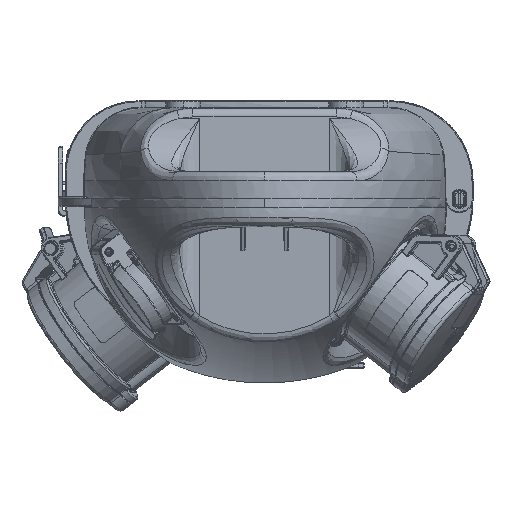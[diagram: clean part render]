
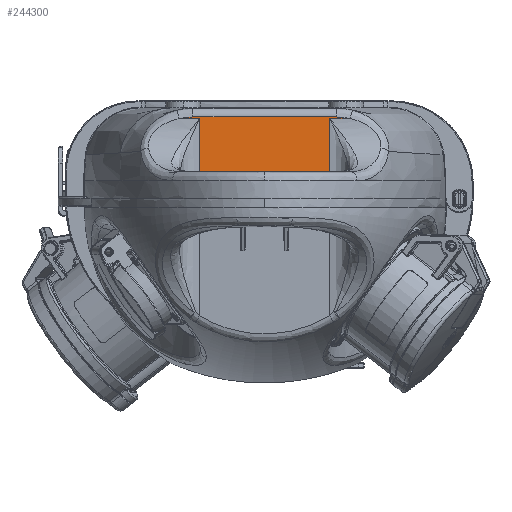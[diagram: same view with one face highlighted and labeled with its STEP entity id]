
A CAD part, left-side view. The second image highlights one B-rep face of the part: STEP entity #244300.
In plain terms, the highlighted planar face has unit normal (-1, 0, 0.026).
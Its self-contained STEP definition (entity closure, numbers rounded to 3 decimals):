
#54414=CARTESIAN_POINT('',(-138.842,47.23,
34.215));
#54434=CARTESIAN_POINT('',(-138.842,47.23,
34.215));
#54435=CARTESIAN_POINT('',(-138.84,46.96,
34.281));
#54436=CARTESIAN_POINT('',(-138.837,46.416,
34.407));
#54437=CARTESIAN_POINT('',(-138.833,45.591,
34.575));
#54438=CARTESIAN_POINT('',(-138.829,44.755,
34.722));
#54439=CARTESIAN_POINT('',(-138.826,43.91,
34.847));
#54440=CARTESIAN_POINT('',(-138.823,43.057,
34.95));
#54441=CARTESIAN_POINT('',(-138.821,42.197,
35.03));
#54442=CARTESIAN_POINT('',(-138.819,41.33,
35.088));
#54443=CARTESIAN_POINT('',(-138.818,40.456,
35.123));
#54444=CARTESIAN_POINT('',(-138.818,39.871,
35.131));
#54445=CARTESIAN_POINT('',(-138.818,39.577,
35.131));
#54456=DIRECTION('',(0.,-1.,0.));
#54457=VECTOR('',#54456,79.155);
#54458=CARTESIAN_POINT('',(-138.818,39.577,
35.131));
#54459=LINE('6782',#54458,#54457);
#54478=CARTESIAN_POINT('',(-138.818,-39.577,
35.131));
#54479=CARTESIAN_POINT('',(-138.818,-39.871,
35.131));
#54480=CARTESIAN_POINT('',(-138.818,-40.456,
35.123));
#54481=CARTESIAN_POINT('',(-138.819,-41.33,
35.088));
#54482=CARTESIAN_POINT('',(-138.821,-42.197,
35.03));
#54483=CARTESIAN_POINT('',(-138.823,-43.057,
34.95));
#54484=CARTESIAN_POINT('',(-138.826,-43.91,
34.847));
#54485=CARTESIAN_POINT('',(-138.829,-44.755,
34.722));
#54486=CARTESIAN_POINT('',(-138.833,-45.591,
34.575));
#54487=CARTESIAN_POINT('',(-138.837,-46.416,
34.407));
#54488=CARTESIAN_POINT('',(-138.84,-46.96,
34.281));
#54489=CARTESIAN_POINT('',(-138.842,-47.23,
34.215));
#54739=DIRECTION('',(0.,1.,0.));
#54740=VECTOR('',#54739,11.354);
#54741=CARTESIAN_POINT('',(-138.842,-47.23,
34.215));
#54742=LINE('6799',#54741,#54740);
#54751=DIRECTION('',(0.,1.,0.));
#54752=VECTOR('',#54751,11.354);
#54753=CARTESIAN_POINT('',(-138.842,35.875,
34.215));
#54754=LINE('6800',#54753,#54752);
#54755=DIRECTION('',(0.,1.,0.));
#54756=VECTOR('',#54755,1.228);
#54757=CARTESIAN_POINT('',(-140.,-35.875,-10.));
#54758=LINE('17929',#54757,#54756);
#54759=DIRECTION('',(0.,1.,0.));
#54760=VECTOR('',#54759,1.228);
#54761=CARTESIAN_POINT('',(-140.,34.647,-10.));
#54762=LINE('17932',#54761,#54760);
#54763=DIRECTION('',(-0.026,0.,-1.));
#54764=VECTOR('',#54763,44.23);
#54765=CARTESIAN_POINT('',(-138.842,-35.875,
34.215));
#54766=LINE('18015',#54765,#54764);
#54861=CARTESIAN_POINT('',(-138.842,-35.875,
34.215));
#55000=DIRECTION('',(-0.026,0.,-1.));
#55001=VECTOR('',#55000,44.23);
#55002=CARTESIAN_POINT('',(-138.842,35.875,
34.215));
#55003=LINE('18016',#55002,#55001);
#55004=CARTESIAN_POINT('',(-138.842,35.875,
34.215));
#56404=CARTESIAN_POINT('',(-139.904,34.436,
-6.352));
#56405=CARTESIAN_POINT('',(-139.915,34.46,
-6.766));
#56406=CARTESIAN_POINT('',(-139.937,34.507,
-7.588));
#56407=CARTESIAN_POINT('',(-139.969,34.577,
-8.804));
#56408=CARTESIAN_POINT('',(-139.99,34.624,
-9.603));
#56409=CARTESIAN_POINT('',(-140.,34.647,-10.));
#56439=CARTESIAN_POINT('',(-139.904,34.436,
-6.352));
#56440=CARTESIAN_POINT('',(-139.876,34.374,
-5.247));
#56441=CARTESIAN_POINT('',(-139.818,34.248,
-3.046));
#56442=CARTESIAN_POINT('',(-139.732,34.061,
0.229));
#56443=CARTESIAN_POINT('',(-139.675,33.938,
2.395));
#56444=CARTESIAN_POINT('',(-139.647,33.876,
3.474));
#56481=DIRECTION('',(0.,-1.,0.));
#56482=VECTOR('',#56481,67.752);
#56483=CARTESIAN_POINT('',(-139.647,33.876,
3.474));
#56484=LINE('6991',#56483,#56482);
#56573=CARTESIAN_POINT('',(-140.,-34.647,-10.));
#56574=CARTESIAN_POINT('',(-139.99,-34.624,
-9.603));
#56575=CARTESIAN_POINT('',(-139.969,-34.577,
-8.804));
#56576=CARTESIAN_POINT('',(-139.937,-34.507,
-7.588));
#56577=CARTESIAN_POINT('',(-139.915,-34.46,
-6.766));
#56578=CARTESIAN_POINT('',(-139.904,-34.436,
-6.352));
#57521=CARTESIAN_POINT('',(-139.647,-33.876,
3.474));
#57522=CARTESIAN_POINT('',(-139.675,-33.938,
2.395));
#57523=CARTESIAN_POINT('',(-139.732,-34.061,
0.229));
#57524=CARTESIAN_POINT('',(-139.818,-34.248,
-3.046));
#57525=CARTESIAN_POINT('',(-139.876,-34.374,
-5.247));
#57526=CARTESIAN_POINT('',(-139.904,-34.436,
-6.352));
#120492=VERTEX_POINT('',#55004);
#120501=VERTEX_POINT('',#54861);
#120539=VERTEX_POINT('',#54414);
#120541=VERTEX_POINT('',#54445);
#120544=CARTESIAN_POINT('',(-138.818,-39.577,
35.131));
#120545=VERTEX_POINT('',#120544);
#120547=VERTEX_POINT('',#54489);
#120750=CARTESIAN_POINT('',(-139.904,34.436,
-6.352));
#120751=VERTEX_POINT('',#120750);
#120752=CARTESIAN_POINT('',(-139.904,-34.436,
-6.352));
#120753=VERTEX_POINT('',#120752);
#120770=CARTESIAN_POINT('',(-139.647,33.876,
3.474));
#120771=CARTESIAN_POINT('',(-139.647,-33.876,
3.474));
#120772=VERTEX_POINT('',#120770);
#120773=VERTEX_POINT('',#120771);
#134564=CARTESIAN_POINT('',(-140.,-35.875,-10.));
#134566=VERTEX_POINT('',#134564);
#134567=CARTESIAN_POINT('',(-140.,-34.647,-10.));
#134568=VERTEX_POINT('',#134567);
#134572=CARTESIAN_POINT('',(-140.,34.647,-10.));
#134574=VERTEX_POINT('',#134572);
#134575=CARTESIAN_POINT('',(-140.,35.875,-10.));
#134576=VERTEX_POINT('',#134575);
#244270=CARTESIAN_POINT('',(-140.,-36.343,-10.));
#244271=DIRECTION('',(1.,0.,-0.026));
#244272=DIRECTION('',(0.,-1.,0.));
#244273=AXIS2_PLACEMENT_3D('',#244270,#244271,#244272);
#244274=PLANE('33',#244273);
#244276=ORIENTED_EDGE('17929',*,*,#244275,.T.);
#244278=ORIENTED_EDGE('18024',*,*,#244277,.T.);
#244280=ORIENTED_EDGE('7009',*,*,#244279,.F.);
#244282=ORIENTED_EDGE('6991',*,*,#244281,.F.);
#244284=ORIENTED_EDGE('7006',*,*,#244283,.F.);
#244286=ORIENTED_EDGE('18023',*,*,#244285,.T.);
#244288=ORIENTED_EDGE('17932',*,*,#244287,.T.);
#244290=ORIENTED_EDGE('18016',*,*,#244289,.F.);
#244291=ORIENTED_EDGE('6800',*,*,#244253,.T.);
#244292=ORIENTED_EDGE('6780',*,*,#243735,.T.);
#244293=ORIENTED_EDGE('6782',*,*,#243761,.T.);
#244294=ORIENTED_EDGE('6784',*,*,#243816,.T.);
#244295=ORIENTED_EDGE('6799',*,*,#244202,.T.);
#244297=ORIENTED_EDGE('18015',*,*,#244296,.T.);
#244298=EDGE_LOOP('33',(#244276,#244278,#244280,#244282,#244284,#244286,#244288,
#244290,#244291,#244292,#244293,#244294,#244295,#244297));
#244299=FACE_OUTER_BOUND('33',#244298,.F.);
#54446=B_SPLINE_CURVE_WITH_KNOTS('6780',3,(#54434,#54435,#54436,#54437,#54438,
#54439,#54440,#54441,#54442,#54443,#54444,#54445),.UNSPECIFIED.,.F.,.F.,(4,1,1,
1,1,1,1,1,1,4),(0.,0.111,0.222,0.333,
0.444,0.556,0.667,0.778,
0.889,1.),.UNSPECIFIED.);
#54490=B_SPLINE_CURVE_WITH_KNOTS('6784',3,(#54478,#54479,#54480,#54481,#54482,
#54483,#54484,#54485,#54486,#54487,#54488,#54489),.UNSPECIFIED.,.F.,.F.,(4,1,1,
1,1,1,1,1,1,4),(0.,0.111,0.222,0.333,
0.444,0.556,0.667,0.778,
0.889,1.),.UNSPECIFIED.);
#56410=B_SPLINE_CURVE_WITH_KNOTS('18023',3,(#56404,#56405,#56406,#56407,#56408,
#56409),.UNSPECIFIED.,.F.,.F.,(4,1,1,4),(0.,0.333,
0.667,1.),.UNSPECIFIED.);
#56445=B_SPLINE_CURVE_WITH_KNOTS('7006',3,(#56439,#56440,#56441,#56442,#56443,
#56444),.UNSPECIFIED.,.F.,.F.,(4,1,1,4),(0.,0.333,
0.667,1.),.UNSPECIFIED.);
#56579=B_SPLINE_CURVE_WITH_KNOTS('18024',3,(#56573,#56574,#56575,#56576,#56577,
#56578),.UNSPECIFIED.,.F.,.F.,(4,1,1,4),(0.,0.333,
0.667,1.),.UNSPECIFIED.);
#57527=B_SPLINE_CURVE_WITH_KNOTS('7009',3,(#57521,#57522,#57523,#57524,#57525,
#57526),.UNSPECIFIED.,.F.,.F.,(4,1,1,4),(0.,0.333,
0.667,1.),.UNSPECIFIED.);
#243735=EDGE_CURVE('6780',#120539,#120541,#54446,.T.);
#243761=EDGE_CURVE('6782',#120541,#120545,#54459,.T.);
#243816=EDGE_CURVE('6784',#120545,#120547,#54490,.T.);
#244202=EDGE_CURVE('6799',#120547,#120501,#54742,.T.);
#244253=EDGE_CURVE('6800',#120492,#120539,#54754,.T.);
#244275=EDGE_CURVE('17929',#134566,#134568,#54758,.T.);
#244277=EDGE_CURVE('18024',#134568,#120753,#56579,.T.);
#244279=EDGE_CURVE('7009',#120773,#120753,#57527,.T.);
#244281=EDGE_CURVE('6991',#120772,#120773,#56484,.T.);
#244283=EDGE_CURVE('7006',#120751,#120772,#56445,.T.);
#244285=EDGE_CURVE('18023',#120751,#134574,#56410,.T.);
#244287=EDGE_CURVE('17932',#134574,#134576,#54762,.T.);
#244289=EDGE_CURVE('18016',#120492,#134576,#55003,.T.);
#244296=EDGE_CURVE('18015',#120501,#134566,#54766,.T.);
#244300=ADVANCED_FACE('33',(#244299),#244274,.F.);
